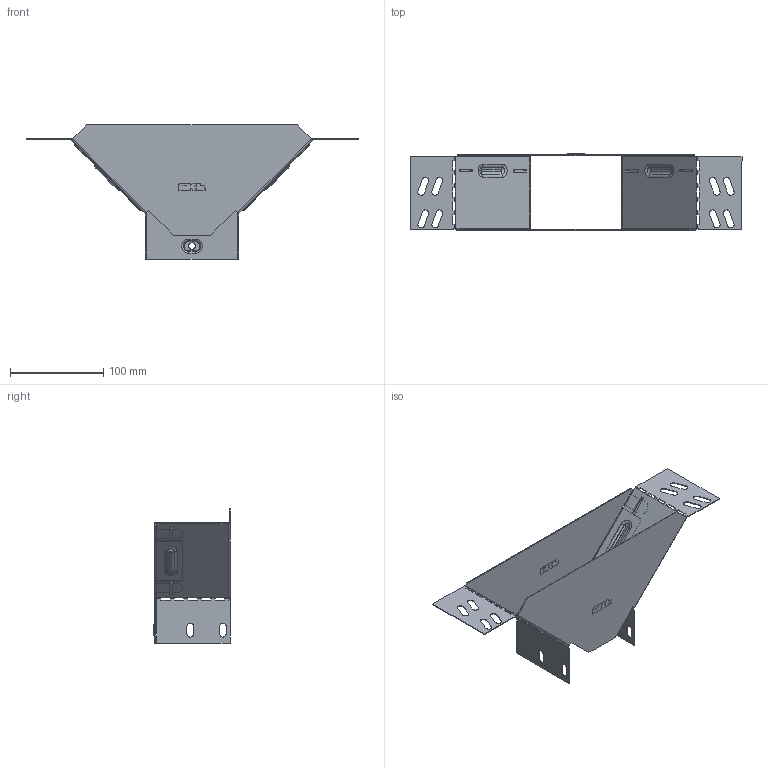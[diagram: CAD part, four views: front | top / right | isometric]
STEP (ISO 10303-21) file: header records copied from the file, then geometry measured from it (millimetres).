
FILE_DESCRIPTION (( 'STEP AP214' ), '1' );
FILE_NAME ('tn8010008_捘.STEP', '2019-06-10T07:59:44', ( '砐錪賧瘔蠈錪 Windows' ), ( '' ), 'SwSTEP 2.0', 'SolidWorks 2018', '' );
FILE_SCHEMA (( 'AUTOMOTIVE_DESIGN' ));
Length unit declared in the file: millimetre
Products named in the file (1): tn8010008_捘
Bounding box: 356.02 x 82.4 x 144 mm (x, y, z)
Volume: 59819.4 mm3; surface area: 152532.7 mm2
Topology: 2 solids, 2 shells, 630 faces, 1788 edges, 1136 vertices
Faces by surface type: plane 386, cylinder 186, torus 40, bspline 18
Entity records: 21259 total; most frequent: CARTESIAN_POINT 4513, ORIENTED_EDGE 3576, DIRECTION 3410, EDGE_CURVE 1788, LINE 1320, VECTOR 1320, VERTEX_POINT 1136, AXIS2_PLACEMENT_3D 1045
